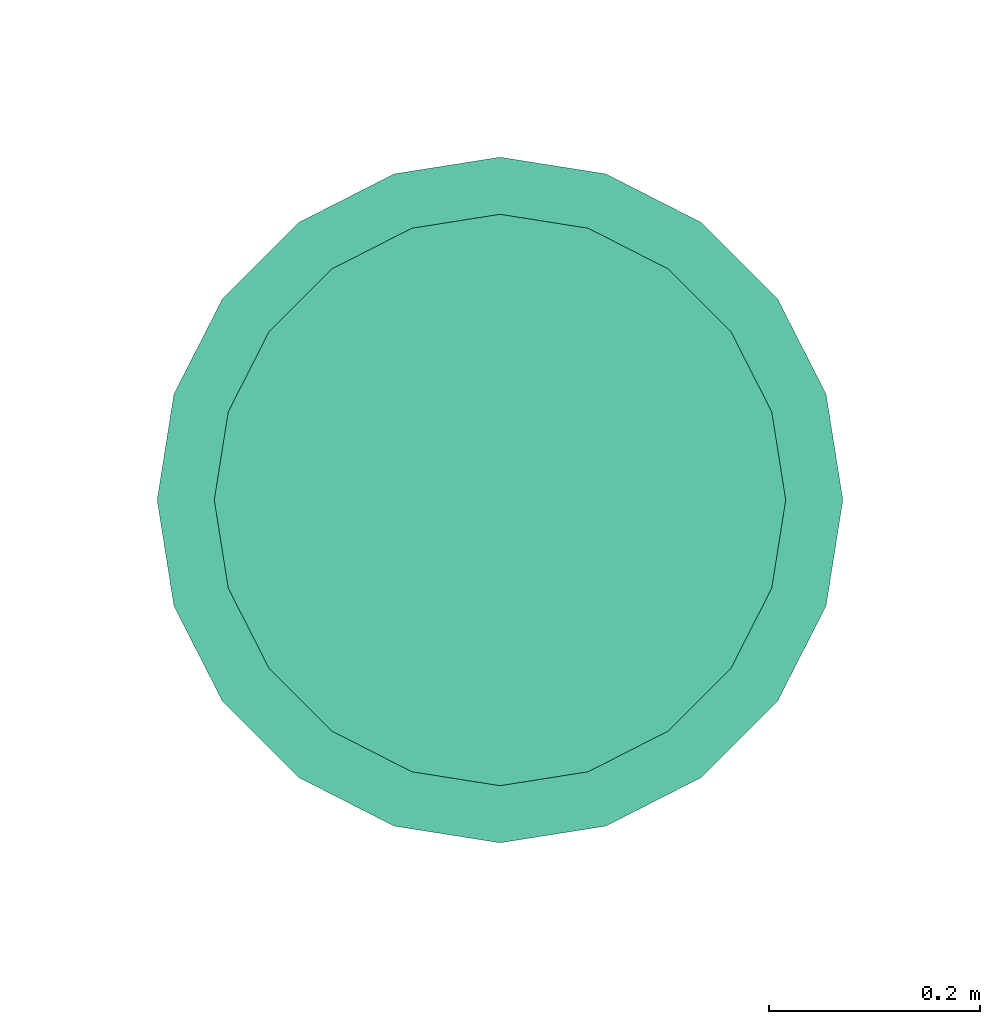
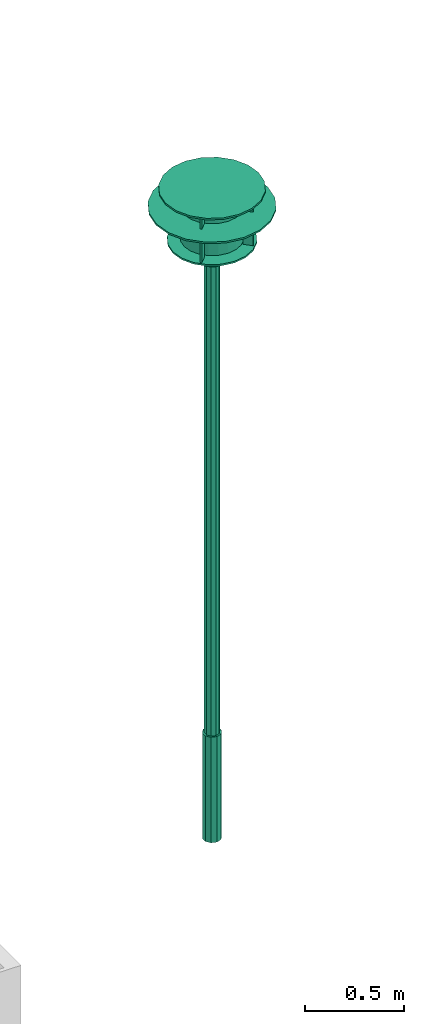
# One storey, part 4 of 8: 1 flow terminal.
"""IFC2X3 building model written with IfcOpenShell, lengths in millimetres."""

from ifc_helpers import new_model, entity, si_unit, converted_unit, derived_unit, direction, frame, frame_2d, origin, origin_2d_with_axis, place, context, subcontext, project, spatial, polyline, rectangle, outline, extrude, source, transform, mapped, material, material_list, type_object, type_shapes, element, save


model = new_model("IFC2X3")

# Units and contexts
model_context = context("Model", 3, precision=0.01, world=origin(), true_north=direction((6.12303176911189e-17, 1.0)))
body_context = subcontext(model_context, "Body", "Model", "MODEL_VIEW")
ifc_project = project(units=[si_unit("LENGTHUNIT", "METRE", prefix="MILLI"), si_unit("AREAUNIT", "SQUARE_METRE"), si_unit("VOLUMEUNIT", "CUBIC_METRE"), converted_unit("PLANEANGLEUNIT", "DEGREE", entity("IfcRatioMeasure", 0.0174532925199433), si_unit("PLANEANGLEUNIT", "RADIAN"), dimensions=[0, 0, 0, 0, 0, 0, 0]), si_unit("MASSUNIT", "GRAM", prefix="KILO"), derived_unit("MASSDENSITYUNIT", [(si_unit("MASSUNIT", "GRAM", prefix="KILO"), 1), (si_unit("LENGTHUNIT", "METRE"), -3)]), si_unit("TIMEUNIT", "SECOND"), si_unit("FREQUENCYUNIT", "HERTZ"), si_unit("THERMODYNAMICTEMPERATUREUNIT", "DEGREE_CELSIUS"), derived_unit("THERMALTRANSMITTANCEUNIT", [(si_unit("MASSUNIT", "GRAM", prefix="KILO"), 1), (si_unit("THERMODYNAMICTEMPERATUREUNIT", "KELVIN"), -1), (si_unit("TIMEUNIT", "SECOND"), -3)]), derived_unit("VOLUMETRICFLOWRATEUNIT", [(si_unit("LENGTHUNIT", "METRE"), 3), (si_unit("TIMEUNIT", "SECOND"), -1)]), si_unit("ELECTRICCURRENTUNIT", "AMPERE"), si_unit("ELECTRICVOLTAGEUNIT", "VOLT"), si_unit("POWERUNIT", "WATT"), si_unit("FORCEUNIT", "NEWTON", prefix="KILO"), si_unit("ILLUMINANCEUNIT", "LUX"), si_unit("LUMINOUSFLUXUNIT", "LUMEN"), si_unit("LUMINOUSINTENSITYUNIT", "CANDELA"), derived_unit("USERDEFINED", [(si_unit("MASSUNIT", "GRAM", prefix="KILO"), -1), (si_unit("LENGTHUNIT", "METRE"), -2), (si_unit("TIMEUNIT", "SECOND"), 3), (si_unit("LUMINOUSFLUXUNIT", "LUMEN"), 1)]), derived_unit("LINEARVELOCITYUNIT", [(si_unit("LENGTHUNIT", "METRE"), 1), (si_unit("TIMEUNIT", "SECOND"), -1)]), si_unit("PRESSUREUNIT", "PASCAL"), derived_unit("USERDEFINED", [(si_unit("LENGTHUNIT", "METRE"), -2), (si_unit("MASSUNIT", "GRAM", prefix="KILO"), 1), (si_unit("TIMEUNIT", "SECOND"), -2)])], contexts=[model_context])

# Site, building, storey
site_placement = place(None, origin())
site = spatial("IfcSite", under=ifc_project, at=site_placement, Name="Default", CompositionType="ELEMENT")
building_placement = place(site_placement, origin())
building = spatial("IfcBuilding", under=site, at=building_placement, CompositionType="ELEMENT")
storey_placement = place(building_placement, origin())
storey = spatial("IfcBuildingStorey", under=building, at=storey_placement, Name="Ground Floor", CompositionType="ELEMENT", Elevation=0.0)

# Flow terminal
ifc_material_1 = material(Name="Metal - Stainless Steel")
ifc_material_2 = material(Name="Glass - Satin")
ifc_material_list_1 = material_list([ifc_material_1, ifc_material_2])
ifc_material_list_2 = material_list([ifc_material_1, ifc_material_2])
light_fixture_type = type_object("IfcLightFixtureType", Name="LI - 001", PredefinedType="NOTDEFINED", material=ifc_material_list_2)
shared_shape = source(origin(), body_context, "Body", "SweptSolid", [
    extrude(outline(polyline([(-50.8412011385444, -320.998710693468), (50.8412011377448, -320.998710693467), (147.546912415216, -289.577120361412), (229.809703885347, -229.809703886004), (289.57712036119, -147.546912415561), (320.998710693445, -50.8412011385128), (320.998710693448, 50.8412011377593), (289.577120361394, 147.546912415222), (229.809703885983, 229.80970388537), (147.546912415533, 289.577120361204), (50.8412011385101, 320.998710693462), (-50.8412011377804, 320.998710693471), (-147.54691241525, 289.577120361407), (-229.809703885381, 229.809703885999), (-289.577120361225, 147.546912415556), (-320.99871069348, 50.8412011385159), (-320.998710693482, -50.8412011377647), (-289.57712036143, -147.546912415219), (-229.809703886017, -229.809703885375), (-147.546912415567, -289.577120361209), (-50.8412011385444, -320.998710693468)]), holes=[polyline([(73.7734562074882, -144.788560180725), (25.4206005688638, -160.499355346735), (-25.4206005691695, -160.499355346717), (-73.773456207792, -144.788560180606), (-114.904851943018, -114.904851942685), (-144.788560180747, -73.7734562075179), (-160.499355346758, -25.4206005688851), (-160.499355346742, 25.4206005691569), (-144.788560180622, 73.7734562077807), (-114.9048519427, 114.904851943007), (-73.7734562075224, 144.78856018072), (-25.4206005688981, 160.49935534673), (25.4206005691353, 160.499355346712), (73.7734562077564, 144.788560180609), (114.904851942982, 114.904851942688), (144.788560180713, 73.7734562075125), (160.499355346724, 25.4206005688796), (160.499355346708, -25.4206005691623), (144.788560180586, -73.7734562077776), (114.904851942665, -114.904851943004), (73.7734562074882, -144.788560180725)])]), frame((95828.0247968, 57660.3691672, 3881.66666667), z_axis=(0.0, 0.0, 1.0), x_axis=(0.98768834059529, -0.15643446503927, 0.0)), (0.0, 0.0, 1.0), 9.99999999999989),
    extrude(outline(polyline([(-42.3676676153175, -267.498925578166), (42.3676676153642, -267.498925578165), (122.955760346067, -241.314266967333), (191.508086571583, -191.508086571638), (241.314266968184, -122.955760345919), (267.498925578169, -42.3676676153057), (267.498925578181, 42.3676676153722), (241.314266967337, 122.955760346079), (191.508086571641, 191.508086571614), (122.955760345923, 241.314266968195), (42.3676676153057, 267.498925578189), (-42.3676676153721, 267.498925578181), (-122.955760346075, 241.314266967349), (-191.508086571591, 191.508086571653), (-241.314266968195, 122.955760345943), (-267.498925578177, 42.3676676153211), (-267.498925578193, -42.3676676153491), (-241.31426696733, -122.955760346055), (-191.508086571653, -191.508086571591), (-122.955760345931, -241.31426696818), (-42.3676676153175, -267.498925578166)])), frame((95828.0247968, 57660.3691672, 3990.0), z_axis=(0.0, 0.0, 1.0), x_axis=(0.891006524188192, -0.453990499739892, 0.0)), (0.0, 0.0, 1.0), 9.99999999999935),
    extrude(outline(polyline([(-14.0791018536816, -88.8919506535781), (14.0791018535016, -88.8919506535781), (40.8591449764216, -80.1905871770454), (63.6396103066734, -63.6396103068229), (80.1905871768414, -40.8591449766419), (88.8919506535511, -14.0791018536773), (88.8919506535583, 14.0791018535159), (80.1905871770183, 40.859144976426), (63.639610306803, 63.6396103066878), (40.8591449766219, 80.1905871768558), (14.0791018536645, 88.8919506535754), (-14.0791018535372, 88.8919506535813), (-40.8591449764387, 80.1905871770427), (-63.6396103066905, 63.6396103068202), (-80.1905871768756, 40.8591449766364), (-88.8919506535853, 14.0791018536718), (-88.8919506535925, -14.0791018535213), (-80.1905871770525, -40.8591449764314), (-63.6396103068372, -63.6396103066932), (-40.859144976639, -80.1905871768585), (-14.0791018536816, -88.8919506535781)]), holes=[polyline([(18.1596199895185, -35.6402609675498), (6.25737860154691, -39.507533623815), (-6.25737860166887, -39.5075336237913), (-18.159619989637, -35.6402609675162), (-28.2842712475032, -28.2842712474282), (-35.6402609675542, -18.1596199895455), (-39.5075336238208, -6.25737860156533), (-39.5075336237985, 6.25737860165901), (-35.6402609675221, 18.1596199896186), (-28.2842712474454, 28.2842712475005), (-18.1596199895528, 35.6402609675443), (-6.25737860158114, 39.5075336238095), (6.25737860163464, 39.5075336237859), (18.1596199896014, 35.6402609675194), (28.284271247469, 28.2842712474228), (35.6402609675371, 18.1596199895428), (39.5075336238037, 6.25737860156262), (39.5075336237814, -6.25737860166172), (35.6402609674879, -18.159619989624), (28.2842712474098, -28.2842712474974), (18.1596199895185, -35.6402609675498)])]), frame((95828.0247968, 57660.3691672, 3575.0), z_axis=(0.0, 0.0, 1.0), x_axis=(0.987688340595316, -0.156434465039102, 0.0)), (0.0, 0.0, 1.0), 9.99999999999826),
    extrude(outline(polyline([(-14.0791018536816, -88.8919506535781), (14.0791018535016, -88.8919506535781), (40.8591449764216, -80.1905871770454), (63.6396103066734, -63.6396103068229), (80.1905871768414, -40.8591449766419), (88.8919506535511, -14.0791018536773), (88.8919506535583, 14.0791018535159), (80.1905871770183, 40.859144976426), (63.639610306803, 63.6396103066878), (40.8591449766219, 80.1905871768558), (14.0791018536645, 88.8919506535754), (-14.0791018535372, 88.8919506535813), (-40.8591449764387, 80.1905871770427), (-63.6396103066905, 63.6396103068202), (-80.1905871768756, 40.8591449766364), (-88.8919506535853, 14.0791018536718), (-88.8919506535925, -14.0791018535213), (-80.1905871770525, -40.8591449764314), (-63.6396103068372, -63.6396103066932), (-40.859144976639, -80.1905871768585), (-14.0791018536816, -88.8919506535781)]), holes=[polyline([(18.1596199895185, -35.6402609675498), (6.25737860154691, -39.507533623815), (-6.25737860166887, -39.5075336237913), (-18.159619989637, -35.6402609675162), (-28.2842712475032, -28.2842712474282), (-35.6402609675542, -18.1596199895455), (-39.5075336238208, -6.25737860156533), (-39.5075336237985, 6.25737860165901), (-35.6402609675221, 18.1596199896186), (-28.2842712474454, 28.2842712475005), (-18.1596199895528, 35.6402609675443), (-6.25737860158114, 39.5075336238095), (6.25737860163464, 39.5075336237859), (18.1596199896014, 35.6402609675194), (28.284271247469, 28.2842712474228), (35.6402609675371, 18.1596199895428), (39.5075336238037, 6.25737860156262), (39.5075336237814, -6.25737860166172), (35.6402609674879, -18.159619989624), (28.2842712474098, -28.2842712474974), (18.1596199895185, -35.6402609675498)])]), frame((95828.0247968, 57660.3691672, 3625.0), z_axis=(0.0, 0.0, 1.0), x_axis=(0.987688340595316, -0.156434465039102, 0.0)), (0.0, 0.0, 1.0), 9.99999999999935),
    extrude(outline(polyline([(-35.5888407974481, -224.699097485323), (35.5888407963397, -224.699097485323), (103.282838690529, -202.703984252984), (160.866792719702, -160.866792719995), (202.703984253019, -103.282838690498), (224.699097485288, -35.5888407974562), (224.699097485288, 35.5888407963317), (202.703984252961, 103.282838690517), (160.866792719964, 160.866792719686), (103.282838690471, 202.703984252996), (35.588840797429, 224.699097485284), (-35.5888407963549, 224.699097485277), (-103.282838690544, 202.703984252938), (-160.866792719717, 160.866792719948), (-202.703984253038, 103.282838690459), (-224.699097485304, 35.5888407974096), (-224.699097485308, -35.5888407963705), (-202.703984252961, -103.282838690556), (-160.866792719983, -160.866792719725), (-103.282838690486, -202.703984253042), (-35.5888407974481, -224.699097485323)])), frame((95828.0247968, 57660.3691672, 3675.0), z_axis=(0.0, 0.0, 1.0), x_axis=(0.891006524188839, -0.453990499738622, 0.0)), (0.0, 0.0, 1.0), 10.0000000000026),
    extrude(outline(polyline([(-25.4206005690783, -160.499355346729), (25.420600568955, -160.499355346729), (73.7734562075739, -144.788560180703), (114.90485194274, -114.904851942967), (144.788560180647, -73.7734562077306), (160.499355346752, -25.4206005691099), (160.499355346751, 25.4206005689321), (144.788560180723, 73.7734562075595), (114.904851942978, 114.904851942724), (73.7734562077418, 144.788560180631), (25.4206005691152, 160.499355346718), (-25.4206005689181, 160.499355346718), (-73.773456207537, 144.788560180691), (-114.904851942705, 114.904851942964), (-144.788560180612, 73.7734562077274), (-160.499355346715, 25.4206005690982), (-160.499355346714, -25.4206005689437), (-144.788560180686, -73.7734562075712), (-114.904851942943, -114.904851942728), (-73.7734562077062, -144.788560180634), (-25.4206005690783, -160.499355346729)])), frame((95828.0247968, 57660.3691672, 3695.0), z_axis=(0.0, 0.0, 1.0), x_axis=(0.987688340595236, -0.156434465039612, 0.0)), (0.0, 0.0, 1.0), 284.999999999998),
    extrude(rectangle(XDim=10.000000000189, YDim=54.1666666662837, at=origin_2d_with_axis()), frame((95693.9691362, 57526.3135066, 3891.66666667), z_axis=(0.0, 0.0, 1.0), x_axis=(-0.707106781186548, 0.707106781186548, 0.0)), (0.0, 0.0, 1.0), 98.3333333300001),
    extrude(rectangle(XDim=10.0000000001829, YDim=54.1666666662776, at=origin_2d_with_axis()), frame((95693.9691362, 57794.4248278, 3891.66666667), z_axis=(0.0, 0.0, 1.0), x_axis=(0.707106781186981, 0.707106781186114, 0.0)), (0.0, 0.0, 1.0), 98.3333333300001),
    extrude(rectangle(XDim=10.0000000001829, YDim=54.1666666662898, at=frame_2d((-6.12487838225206e-12, -1.83764115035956e-11), x_axis=(1.0, 0.0))), frame((95962.0804574, 57794.4248278, 3891.66666667), z_axis=(0.0, 0.0, 1.0), x_axis=(0.707106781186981, -0.707106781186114, 0.0)), (0.0, 0.0, 1.0), 98.3333333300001),
    extrude(rectangle(XDim=10.000000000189, YDim=54.1666666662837, at=origin_2d_with_axis()), frame((95962.0804574, 57526.3135066, 3891.66666667), z_axis=(0.0, 0.0, 1.0), x_axis=(-0.707106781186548, -0.707106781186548, 0.0)), (0.0, 0.0, 1.0), 98.3333333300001),
    extrude(rectangle(XDim=10.000000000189, YDim=54.1666666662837, at=origin_2d_with_axis()), frame((95693.9691362, 57526.3135066, 3685.0), z_axis=(0.0, 0.0, 1.0), x_axis=(-0.707106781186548, 0.707106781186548, 0.0)), (0.0, 0.0, 1.0), 196.66666667),
    extrude(rectangle(XDim=10.0000000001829, YDim=54.1666666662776, at=origin_2d_with_axis()), frame((95693.9691362, 57794.4248278, 3685.0), z_axis=(0.0, 0.0, 1.0), x_axis=(0.707106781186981, 0.707106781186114, 0.0)), (0.0, 0.0, 1.0), 196.66666667),
    extrude(rectangle(XDim=10.0000000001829, YDim=54.1666666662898, at=frame_2d((-6.12487838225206e-12, -1.83764115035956e-11), x_axis=(1.0, 0.0))), frame((95962.0804574, 57794.4248278, 3685.0), z_axis=(0.0, 0.0, 1.0), x_axis=(0.707106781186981, -0.707106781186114, 0.0)), (0.0, 0.0, 1.0), 196.66666667),
    extrude(rectangle(XDim=10.000000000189, YDim=54.1666666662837, at=origin_2d_with_axis()), frame((95962.0804574, 57526.3135066, 3685.0), z_axis=(0.0, 0.0, 1.0), x_axis=(-0.707106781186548, -0.707106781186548, 0.0)), (0.0, 0.0, 1.0), 196.66666667),
    extrude(outline(polyline([(-12.3606797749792, -38.0422606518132), (12.3606797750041, -38.0422606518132), (32.3606797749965, -23.5114100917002), (40.0, 0.0), (32.360679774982, 23.5114100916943), (12.360679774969, 38.0422606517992), (-12.3606797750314, 38.0422606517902), (-32.3606797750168, 23.5114100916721), (-40.0, 0.0), (-32.3606797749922, -23.5114100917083), (-12.3606797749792, -38.0422606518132)])), frame((95828.0247968, 57660.3691672, 3350.0), z_axis=(0.0, 0.0, 1.0), x_axis=(0.58778525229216, -0.809016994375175, 0.0)), (0.0, 0.0, 1.0), 325.0),
    extrude(outline(polyline([(-12.3606797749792, -38.0422606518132), (12.3606797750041, -38.0422606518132), (32.3606797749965, -23.5114100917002), (40.0, 0.0), (32.360679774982, 23.5114100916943), (12.360679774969, 38.0422606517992), (-12.3606797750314, 38.0422606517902), (-32.3606797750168, 23.5114100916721), (-40.0, 0.0), (-32.3606797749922, -23.5114100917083), (-12.3606797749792, -38.0422606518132)])), frame((95828.0247968, 57660.3691672, 650.0), z_axis=(0.0, 0.0, 1.0), x_axis=(0.58778525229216, -0.809016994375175, 0.0)), (0.0, 0.0, 1.0), 2700.0),
    extrude(outline(polyline([(-15.4508497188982, -47.5528258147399), (15.4508497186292, -47.5528258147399), (40.4508497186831, -29.3892626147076), (50.0, 0.0), (40.4508497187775, 29.3892626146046), (15.450849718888, 47.5528258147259), (-15.4508497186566, 47.552825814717), (-40.4508497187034, 29.3892626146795), (-50.0, 0.0), (-40.4508497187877, -29.3892626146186), (-15.4508497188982, -47.5528258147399)])), frame((95828.0247968, 57660.3691672, 0.0), z_axis=(0.0, 0.0, 1.0), x_axis=(0.587785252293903, -0.809016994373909, 0.0)), (0.0, 0.0, 1.0), 650.0),
])
type_shapes(light_fixture_type, [shared_shape])
flow_terminal_placement = place(storey_placement, origin())
element("IfcFlowTerminal", 1, at=flow_terminal_placement, inside=storey, type_object=light_fixture_type, material=ifc_material_list_1, Name="LI - 001 1769851:LI - 001 1769851", ObjectType="LI - 001 1769851:LI - 001 1769851", context=body_context, shape_type="MappedRepresentation", body=[
    mapped(shared_shape, transform((0.0, 0.0, 0.0), scale=1.0)),
])

save(model, "model.ifc")
